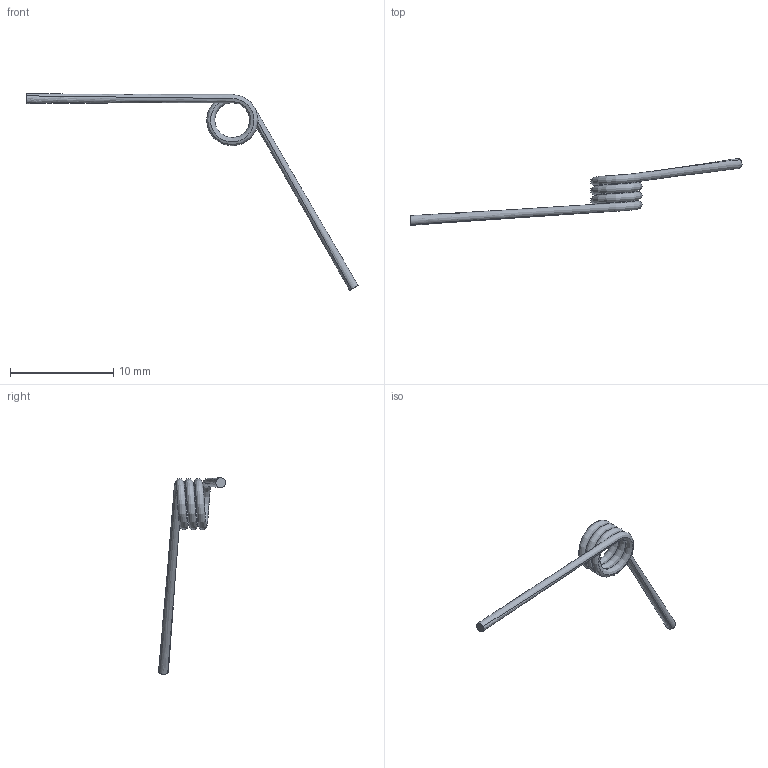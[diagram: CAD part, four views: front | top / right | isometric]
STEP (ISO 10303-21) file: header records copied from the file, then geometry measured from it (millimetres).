
FILE_DESCRIPTION (( 'STEP AP203' ), '1' );
FILE_NAME ('0.8_5_3_120.STEP', '2024-07-06T14:35:33', ( '' ), ( '' ), 'SwSTEP 2.0', 'SolidWorks 2020', '' );
FILE_SCHEMA (( 'CONFIG_CONTROL_DESIGN' ));
Length unit declared in the file: millimetre
Products named in the file (1): 0.8_5_3_120
Bounding box: 32.18 x 6.51 x 19.04 mm (x, y, z)
Volume: 44.2 mm3; surface area: 214.3 mm2
Topology: 1 solids, 1 shells, 4 faces, 6 edges, 4 vertices
Faces by surface type: bspline 2, plane 2
Entity records: 1089 total; most frequent: CARTESIAN_POINT 959, ORIENTED_EDGE 12, PERSON_AND_ORGANIZATION 8, DIRECTION 6, EDGE_CURVE 6, DATE_AND_TIME 5, COORDINATED_UNIVERSAL_TIME_OFFSET 5, PERSON_AND_ORGANIZATION_ROLE 5
